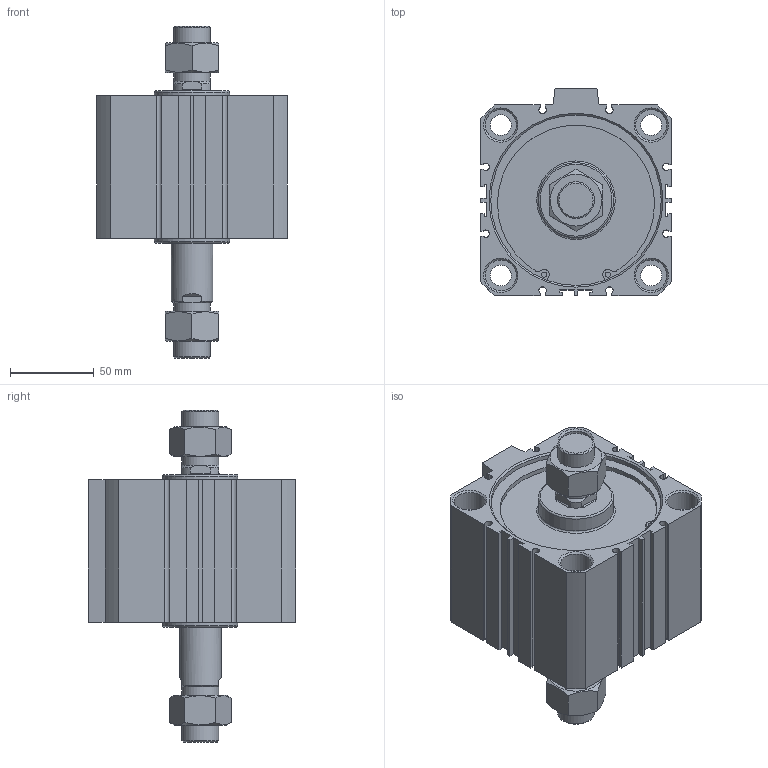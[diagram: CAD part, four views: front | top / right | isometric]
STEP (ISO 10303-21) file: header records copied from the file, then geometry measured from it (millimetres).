
FILE_DESCRIPTION((''),'2;1');
FILE_NAME('I:\3D電子目錄\氣缸\JDD\JDD-BS\JDD100-BS\JDD100x30-BS.stp','2007-02-28T08:50:28',('662F206'),(''),'Autodesk Inventor 10','Autodesk Inventor 10','');
FILE_SCHEMA(('AUTOMOTIVE_DESIGN { 1 0 10303 214 1 1 1 1 }'));
Length unit declared in the file: millimetre
Products named in the file (3): JDD100-BS; R 形環 100
Assembly tree (3 placements, depth 2):
  JDD100-BS
    JDD100-BS
    R 形環 100  x2
Bounding box: 114 x 124 x 198.7 mm (x, y, z)
Volume: 1007322.4 mm3; surface area: 123422.8 mm2
Topology: 3 solids, 3 shells, 219 faces, 538 edges, 351 vertices
Faces by surface type: plane 130, cylinder 59, cone 26, bspline 2, torus 2
Full cylindrical faces by diameter (mm): 3.1 x4, 3.5 x2, 12.5 x4, 18.5 x8, 22 x4, 25 x1, 45 x2, 102 x4, 106 x2
Entity records: 5905 total; most frequent: CARTESIAN_POINT 1143, DIRECTION 978, ORIENTED_EDGE 894, EDGE_CURVE 447, AXIS2_PLACEMENT_3D 356, VERTEX_POINT 323, EDGE_LOOP 298, VECTOR 266
